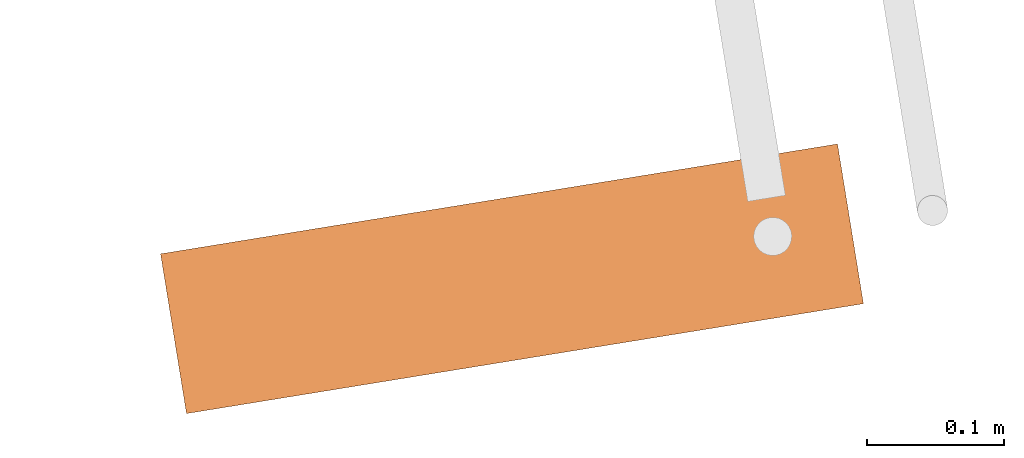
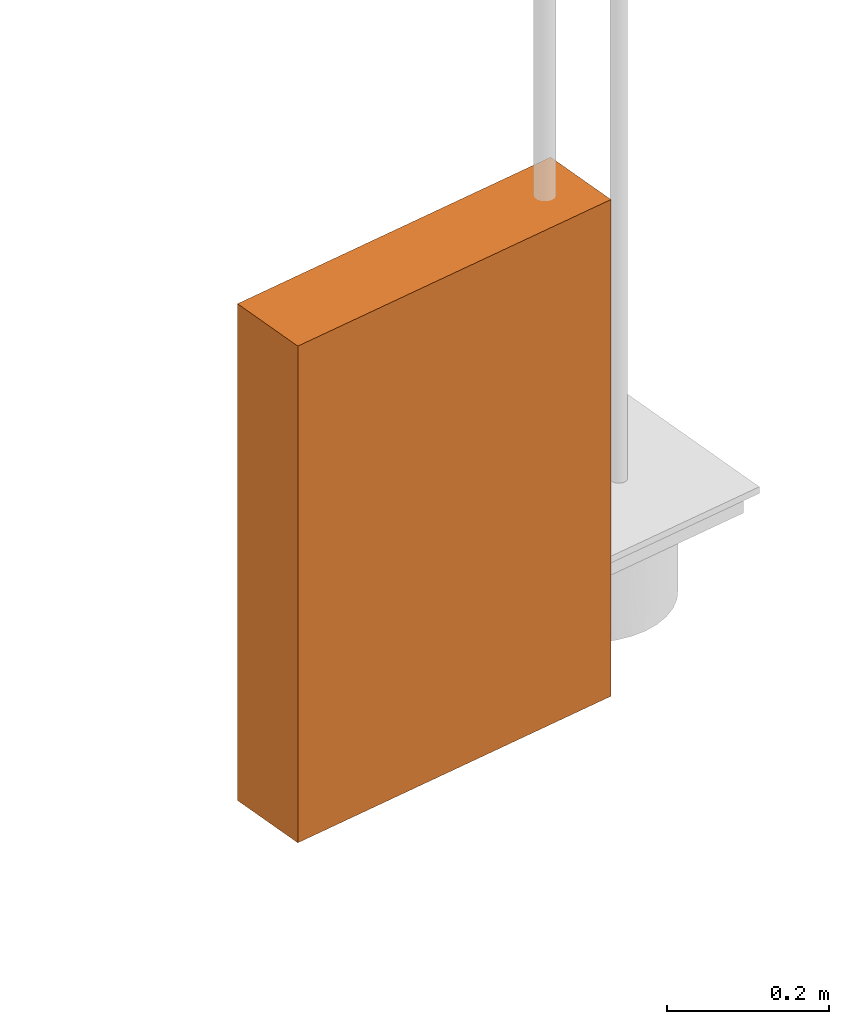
# One storey, part 10 of 10: 1 proxy.
"""IFC2X3 building model written with IfcOpenShell, lengths in millimetres."""

from ifc_helpers import new_model, entity, si_unit, converted_unit, derived_unit, direction, frame, origin, origin_with_axes, origin_2d_with_axis, place, context, subcontext, project, spatial, rectangle, extrude, source, transform, mapped, material, type_object, element, save


model = new_model("IFC2X3")

# Units and contexts
model_context = context("Model", 3, precision=0.01, world=origin(), true_north=direction((6.12323399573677e-17, 1.0)))
plan_context = context("Plan", 3, precision=1e-05, world=origin_with_axes())
body_context = subcontext(model_context, "Body", "Model", "MODEL_VIEW")
ifc_project = project(units=[converted_unit("PLANEANGLEUNIT", "DEGREE", entity("IfcPositiveLengthMeasure", 0.0174532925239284), si_unit("PLANEANGLEUNIT", "RADIAN"), dimensions=[0, 0, 0, 0, 0, 0, 0]), si_unit("AREAUNIT", "SQUARE_METRE"), si_unit("LENGTHUNIT", "METRE", prefix="MILLI"), si_unit("MASSUNIT", "GRAM", prefix="KILO"), si_unit("POWERUNIT", "WATT"), si_unit("PRESSUREUNIT", "PASCAL", prefix="KILO"), si_unit("FORCEUNIT", "NEWTON", prefix="KILO"), si_unit("ELECTRICVOLTAGEUNIT", "VOLT"), si_unit("ELECTRICCURRENTUNIT", "AMPERE"), si_unit("THERMODYNAMICTEMPERATUREUNIT", "DEGREE_CELSIUS"), si_unit("TIMEUNIT", "SECOND"), si_unit("VOLUMEUNIT", "CUBIC_METRE"), derived_unit("LINEARVELOCITYUNIT", [(si_unit("LENGTHUNIT", "METRE"), 1), (si_unit("TIMEUNIT", "SECOND"), -1)]), derived_unit("VOLUMETRICFLOWRATEUNIT", [(si_unit("VOLUMEUNIT", "CUBIC_METRE"), 1), (si_unit("TIMEUNIT", "SECOND"), -1)]), derived_unit("THERMALTRANSMITTANCEUNIT", [(si_unit("POWERUNIT", "WATT"), 1), (si_unit("THERMODYNAMICTEMPERATUREUNIT", "KELVIN"), -1), (si_unit("AREAUNIT", "SQUARE_METRE"), -1)]), derived_unit("SOUNDPRESSUREUNIT", [(si_unit("PRESSUREUNIT", "PASCAL"), 1)])], contexts=[model_context, plan_context])

# Site, building, storey
site_placement = place(None, frame((-0.000710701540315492, 0.00438415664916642, 0.0), z_axis=(0.0, 0.0, 1.0), x_axis=(-0.160236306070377, 0.987078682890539, 0.0)))
site = spatial("IfcSite", under=ifc_project, at=site_placement, Name="Default", CompositionType="ELEMENT")
building_placement = place(site_placement, origin_with_axes())
building = spatial("IfcBuilding", under=site, at=building_placement, CompositionType="ELEMENT")
storey_placement = place(building_placement, frame((0.0, 0.0, 50999.9999999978), z_axis=(0.0, 0.0, 1.0), x_axis=(1.0, 0.0, 0.0)))
storey = spatial("IfcBuildingStorey", under=building, at=storey_placement, Name="Nivå D", CompositionType="ELEMENT", Elevation=50999.9999999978)

# Proxy
ifc_material = material(Name="<Unnamed>")
building_element_proxy_type = type_object("IfcBuildingElementProxyType", Name="TAPPEVANN KURS - 12 -  - OR:TAPPEVANN KURS - 12 - 12 - OR001T", PredefinedType="NOTDEFINED", material=ifc_material)
shared_shape = source(origin(), body_context, "Body", "SweptSolid", [
    extrude(rectangle(XDim=118.0, YDim=750.0, at=origin_2d_with_axis()), frame((345.0, -136.0, 0.0), z_axis=(0.0, 0.0, 1.0), x_axis=(0.0, 1.0, 0.0)), (0.0, 0.0, 1.0), 500.0),
])
proxy_placement = place(storey_placement, frame((768777.47664694, -596184.71919723, 129.499999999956), z_axis=(0.0, -1.0, 0.0), x_axis=(0.0, 0.0, 1.0)))
element("IfcBuildingElementProxy", 1, at=proxy_placement, inside=storey, type_object=building_element_proxy_type, material=ifc_material, Name="TAPPEVANN KURS - 12 -  - OR:TAPPEVANN KURS - 12 - 12 - OR001T", ObjectType="TAPPEVANN KURS - 12 -  - OR:TAPPEVANN KURS - 12 - 12 - OR001T", context=body_context, shape_type="MappedRepresentation", body=[
    mapped(shared_shape, transform((0.0, 0.0, 0.0), scale=1.0)),
])

save(model, "model.ifc")
